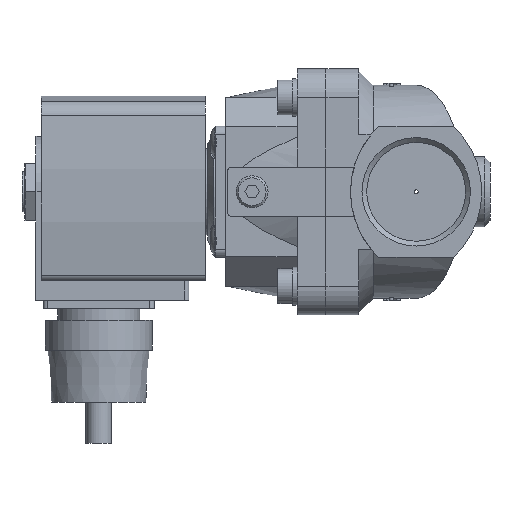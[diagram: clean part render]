
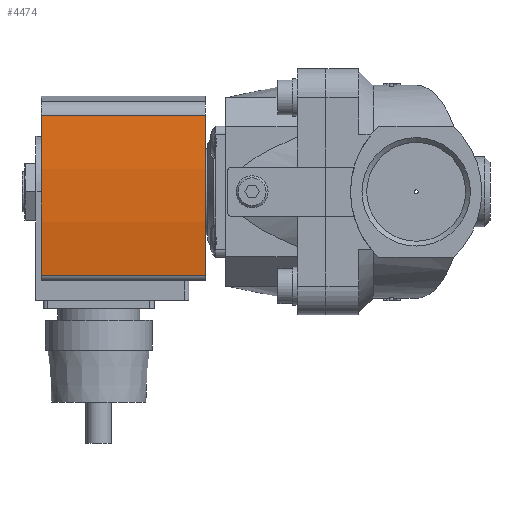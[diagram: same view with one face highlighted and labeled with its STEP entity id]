
A CAD part, left-side view. The second image highlights one B-rep face of the part: STEP entity #4474.
In plain terms, the highlighted cylindrical face has radius 130 mm (diameter 260 mm), a partial arc.
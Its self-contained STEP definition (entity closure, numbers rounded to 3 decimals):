
#383=CIRCLE('',#5322,130.);
#391=CIRCLE('',#5333,130.);
#726=LINE('',#8122,#1066);
#727=LINE('',#8126,#1067);
#1066=VECTOR('',#6546,1000.);
#1067=VECTOR('',#6551,1000.);
#2211=ORIENTED_EDGE('',*,*,#2940,.T.);
#2212=ORIENTED_EDGE('',*,*,#2941,.F.);
#2213=ORIENTED_EDGE('',*,*,#2929,.F.);
#2214=ORIENTED_EDGE('',*,*,#2939,.T.);
#2929=EDGE_CURVE('',#3395,#3396,#383,.T.);
#2939=EDGE_CURVE('',#3395,#3402,#726,.T.);
#2940=EDGE_CURVE('',#3402,#3403,#391,.T.);
#2941=EDGE_CURVE('',#3396,#3403,#727,.T.);
#3395=VERTEX_POINT('',#8102);
#3396=VERTEX_POINT('',#8104);
#3402=VERTEX_POINT('',#8121);
#3403=VERTEX_POINT('',#8125);
#3756=EDGE_LOOP('',(#2211,#2212,#2213,#2214));
#4104=FACE_BOUND('',#3756,.T.);
#4234=CYLINDRICAL_SURFACE('',#5332,130.);
#4474=ADVANCED_FACE('',(#4104),#4234,.T.);
#5322=AXIS2_PLACEMENT_3D('',#8103,#6524,#6525);
#5332=AXIS2_PLACEMENT_3D('',#8123,#6547,#6548);
#5333=AXIS2_PLACEMENT_3D('',#8124,#6549,#6550);
#6524=DIRECTION('',(0.,1.,0.));
#6525=DIRECTION('',(1.,0.,0.));
#6546=DIRECTION('',(0.,-1.,0.));
#6547=DIRECTION('',(0.,-1.,0.));
#6548=DIRECTION('',(0.,0.,-1.));
#6549=DIRECTION('',(0.,1.,0.));
#6550=DIRECTION('',(1.,0.,0.));
#6551=DIRECTION('',(0.,-1.,0.));
#8102=CARTESIAN_POINT('',(-20.382,14.,18.392));
#8103=CARTESIAN_POINT('',(0.,14.,-110.));
#8104=CARTESIAN_POINT('',(18.639,14.,18.657));
#8121=CARTESIAN_POINT('',(-20.382,-26.,18.392));
#8122=CARTESIAN_POINT('',(-20.382,14.,18.392));
#8123=CARTESIAN_POINT('',(0.,14.,-110.));
#8124=CARTESIAN_POINT('',(0.,-26.,-110.));
#8125=CARTESIAN_POINT('',(18.639,-26.,18.657));
#8126=CARTESIAN_POINT('',(18.639,14.,18.657));
